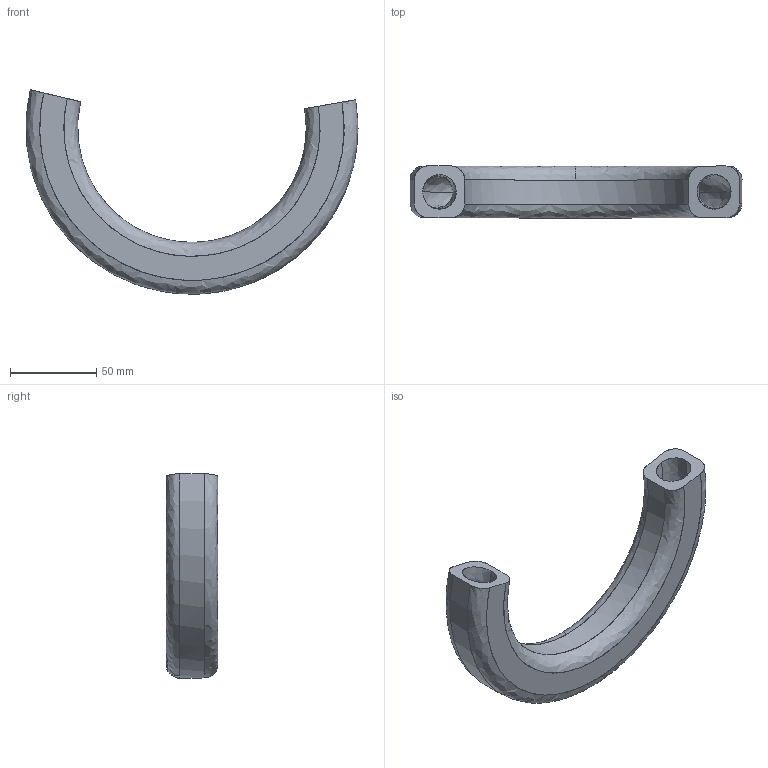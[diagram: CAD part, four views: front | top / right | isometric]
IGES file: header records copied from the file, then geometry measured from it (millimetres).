
Start section: SolidWorks IGES file using analytic representation for surfaces
Global section: file name: D:\ansys_10\c05_ansys_10_021907\part_files\iges\sweep_meshing_example.IGS; native system: SolidWorks 2007; preprocessor: SolidWorks 2007; author: Cad; date: 070428.112648; units: metre
Bounding box: 192.61 x 30 x 118.59 mm (x, y, z)
Surface area: 49869.3 mm2 (no closed solid volume)
Topology: 0 solids, 0 shells, 16 faces, 360 edges, 360 vertices
Faces by surface type: bspline 14, revolution 2
